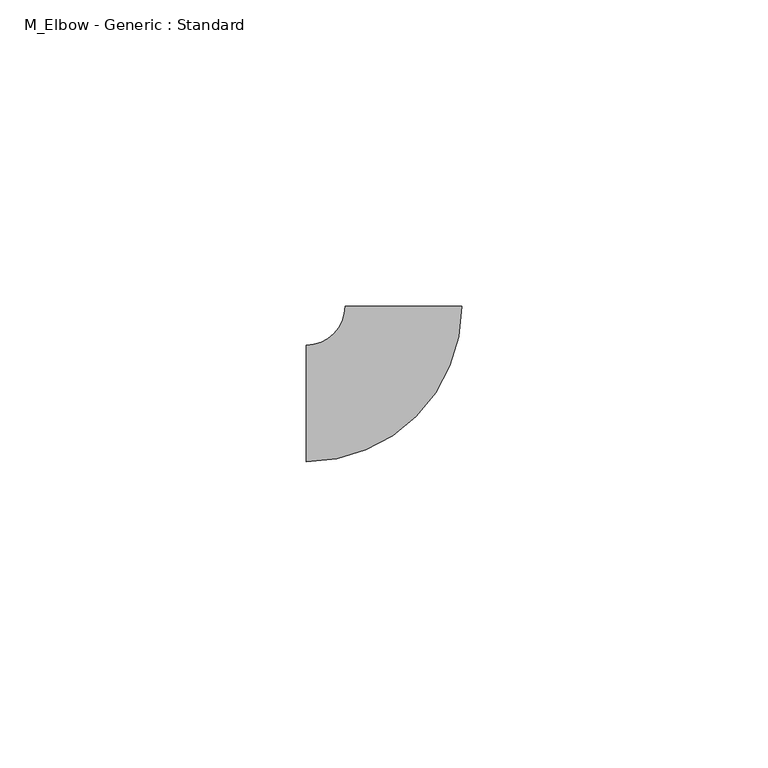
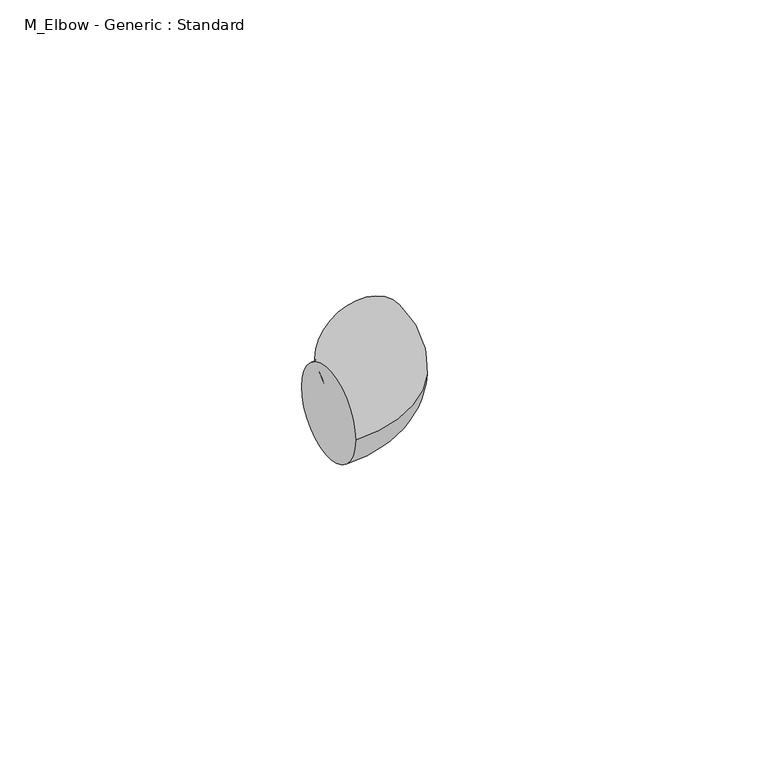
"""IFC4 building model written with IfcOpenShell, lengths in millimetres: pipe fitting geometry, M_Elbow - Generic : Standard."""

import ifcopenshell
import ifcopenshell.guid

model = None  # the IFC model being written
_history = None  # IfcOwnerHistory: only IFC2X3 demands one
_inside = {}  # id of a spatial element -> (the spatial element, [elements in it])
_under = {}  # id of a project, library or spatial element -> (it, [spatial elements below it])
_declared = {}  # id of a project -> (the project, [libraries it declares])
_typed = {}  # id of a type object -> (the type object, [elements of that type])
_made_of = {}  # id of a material, layer set ... -> (it, [elements and type objects made of it])


def new_model(schema):
    """Start an empty IFC model of exactly this schema.

    Asked for "IFC4X3", IfcOpenShell would pick the latest addendum, in which some entities
    have other attributes; the version numbers below select the first issue.
    IFC2X3 requires an IfcOwnerHistory on every rooted entity: one is made here for all.
    """
    global model, _history
    if schema == "IFC4X3":
        model = ifcopenshell.file(schema_version=(4, 3, 0, 0))
    else:
        model = ifcopenshell.file(schema=schema)
    _inside.clear()
    _under.clear()
    _declared.clear()
    _typed.clear()
    _made_of.clear()
    _history = None
    if model.schema == "IFC2X3":
        org = make("IfcOrganization", Name="unknown")
        user = make(
            "IfcPersonAndOrganization",
            ThePerson=make("IfcPerson", FamilyName="unknown"),
            TheOrganization=org,
        )
        app = make(
            "IfcApplication",
            ApplicationDeveloper=org,
            Version="unknown",
            ApplicationFullName="unknown",
            ApplicationIdentifier="unknown",
        )
        _history = make(
            "IfcOwnerHistory",
            OwningUser=user,
            OwningApplication=app,
            ChangeAction="ADDED",
            CreationDate=0,
        )
    return model


def make(cls, **values):
    """One entity of the class cls with the attributes given. An attribute that is None is left unset."""
    return model.create_entity(
        cls, **{name: value for name, value in values.items() if value is not None}
    )


def rooted(cls, **values):
    """An entity with a GlobalId (a new one), such as an element, a storey or a relation."""
    return make(cls, GlobalId=ifcopenshell.guid.new(), OwnerHistory=_history, **values)


def si_unit(unit_type, name, prefix=None):
    """IfcSIUnit, for example si_unit("LENGTHUNIT", "METRE", prefix="MILLI")."""
    return make("IfcSIUnit", UnitType=unit_type, Prefix=prefix, Name=name)


def assignment(units):
    """IfcUnitAssignment: the units of a project."""
    return None if units is None else make("IfcUnitAssignment", Units=units)


def point(xyz):
    """IfcCartesianPoint."""
    return None if xyz is None else make("IfcCartesianPoint", Coordinates=xyz)


def direction(xyz):
    """IfcDirection."""
    return None if xyz is None else make("IfcDirection", DirectionRatios=xyz)


def frame(location, z_axis=None, x_axis=None):
    """IfcAxis2Placement3D, a coordinate frame: its origin and axes. An axis left out is left unset."""
    return make(
        "IfcAxis2Placement3D",
        Location=point(location),
        Axis=direction(z_axis),
        RefDirection=direction(x_axis),
    )


def origin():
    """The frame at (0, 0, 0) with its axes left unset."""
    return frame((0.0, 0.0, 0.0))


def place(relative_to, where):
    """IfcLocalPlacement: puts the frame where relative to a parent placement (None: the world)."""
    return make(
        "IfcLocalPlacement", PlacementRelTo=relative_to, RelativePlacement=where
    )


def context(
    kind, dimensions, precision=None, world=None, true_north=None, identifier=None
):
    """IfcGeometricRepresentationContext, for example the 3D "Model" context."""
    return make(
        "IfcGeometricRepresentationContext",
        ContextIdentifier=identifier,
        ContextType=kind,
        CoordinateSpaceDimension=dimensions,
        Precision=precision,
        WorldCoordinateSystem=world,
        TrueNorth=true_north,
    )


def project(units=None, contexts=None):
    """IfcProject with its units and contexts."""
    return rooted(
        "IfcProject",
        Name="project",
        RepresentationContexts=contexts,
        UnitsInContext=assignment(units),
    )


def spatial(cls, under=None, at=None, **own):
    """A site, building, storey or space (cls), placed at a placement, below another one or the project."""
    s = rooted(cls, ObjectPlacement=at, **own)
    if under is not None:
        _under.setdefault(under.id(), (under, []))[1].append(s)
    return s


def circle_curve(where, radius):
    """IfcCircle in the frame where."""
    return make("IfcCircle", Position=where, Radius=radius)


def ellipse_curve(where, semi_axis1, semi_axis2):
    """IfcEllipse in the frame where."""
    return make(
        "IfcEllipse", Position=where, SemiAxis1=semi_axis1, SemiAxis2=semi_axis2
    )


def trimmed(basis, trim1, trim2, sense, master):
    """IfcTrimmedCurve: the piece of a basis curve between two trims."""
    return make(
        "IfcTrimmedCurve",
        BasisCurve=basis,
        Trim1=trim1,
        Trim2=trim2,
        SenseAgreement=sense,
        MasterRepresentation=master,
    )


def shape(context_of_items, identifier, shape_type, items):
    """IfcShapeRepresentation: the items that make up one representation, for example the "Body"."""
    return make(
        "IfcShapeRepresentation",
        ContextOfItems=context_of_items,
        RepresentationIdentifier=identifier,
        RepresentationType=shape_type,
        Items=items,
    )


def source(mapping_origin, context_of_items, identifier, shape_type, items):
    """IfcRepresentationMap: a shape defined once, which mapped items show again and again."""
    return make(
        "IfcRepresentationMap",
        MappingOrigin=mapping_origin,
        MappedRepresentation=shape(context_of_items, identifier, shape_type, items),
    )


def transform(
    local_origin,
    x_axis=None,
    y_axis=None,
    z_axis=None,
    scale=None,
    scale2=None,
    scale3=None,
    uniform=True,
):
    """IfcCartesianTransformationOperator3D, or its non-uniform kind. x_axis, y_axis, z_axis: its Axis1, 2, 3."""
    if uniform:
        return make(
            "IfcCartesianTransformationOperator3D",
            Axis1=direction(x_axis),
            Axis2=direction(y_axis),
            LocalOrigin=point(local_origin),
            Scale=scale,
            Axis3=direction(z_axis),
        )
    return make(
        "IfcCartesianTransformationOperator3DnonUniform",
        Axis1=direction(x_axis),
        Axis2=direction(y_axis),
        LocalOrigin=point(local_origin),
        Scale=scale,
        Axis3=direction(z_axis),
        Scale2=scale2,
        Scale3=scale3,
    )


def mapped(mapping_source, mapping_target):
    """IfcMappedItem: shows the shape of a source again, moved by a transform."""
    return make(
        "IfcMappedItem", MappingSource=mapping_source, MappingTarget=mapping_target
    )


def made_of(thing, what):
    """Note that an element or type object is made of a material, layer set ...; save() writes the relation."""
    if what is not None:
        _made_of.setdefault(what.id(), (what, []))[1].append(thing)
    return thing


def element(
    cls,
    number,
    at=None,
    inside=None,
    cuts=None,
    type_object=None,
    material=None,
    context=None,
    identifier="Body",
    shape_type=None,
    held_by="IfcProductDefinitionShape",
    body=None,
    shapes=None,
    **own,
):
    """One element of the class cls, such as IfcWall. Its Tag is "e" and its number.

    at: its placement. inside: the storey or other place that contains it. cuts: it is an
    opening in that element (IfcRelVoidsElement). A single representation is given by context,
    identifier, shape_type and body (its items); several are given by shapes. held_by: the class
    of the entity that holds the representations. save() writes the other relations.
    """
    e = rooted(cls, Tag="e%d" % number, ObjectPlacement=at, **own)
    if body is not None:
        shapes = [shape(context, identifier, shape_type, body)]
    if shapes is not None:
        e.Representation = make(held_by, Representations=shapes)
    if inside is not None:
        _inside.setdefault(inside.id(), (inside, []))[1].append(e)
    if cuts is not None:
        rooted(
            "IfcRelVoidsElement", RelatingBuildingElement=cuts, RelatedOpeningElement=e
        )
    if type_object is not None:
        _typed.setdefault(type_object.id(), (type_object, []))[1].append(e)
    return made_of(e, material)


def aggregate(whole, parts):
    """IfcRelAggregates: a whole, such as a stair, and the parts it consists of."""
    return rooted("IfcRelAggregates", RelatingObject=whole, RelatedObjects=parts)


def save(model, path):
    """Write the relations noted so far, then the file.

    IfcRelAggregates (storeys below a building ...), IfcRelContainedInSpatialStructure (elements
    in a storey), IfcRelDefinesByType, IfcRelAssociatesMaterial and IfcRelDeclares: one each for
    every whole, place, type object, material and project.
    """
    for whole, parts in _under.values():
        aggregate(whole, parts)
    for where, things in _inside.values():
        rooted(
            "IfcRelContainedInSpatialStructure",
            RelatedElements=things,
            RelatingStructure=where,
        )
    for kind, things in _typed.values():
        rooted("IfcRelDefinesByType", RelatedObjects=things, RelatingType=kind)
    for what, things in _made_of.values():
        rooted("IfcRelAssociatesMaterial", RelatedObjects=things, RelatingMaterial=what)
    for by, libraries in _declared.values():
        rooted("IfcRelDeclares", RelatingContext=by, RelatedDefinitions=libraries)
    model.write(path)


def plane_surface(at):
    """IfcPlane: the flat surface through the origin of the frame at, square to its z axis."""
    return make("IfcPlane", Position=at)


def revolved_surface(curve, axis_point, axis_direction):
    """IfcSurfaceOfRevolution: the curve turned about the line through axis_point along axis_direction."""
    return make(
        "IfcSurfaceOfRevolution",
        SweptCurve=make("IfcArbitraryOpenProfileDef", ProfileType="CURVE", Curve=curve),
        AxisPosition=make("IfcAxis1Placement", Location=point(axis_point), Axis=direction(axis_direction)),
    )


def advanced_brep(points, edges, surfaces, faces):
    """IfcAdvancedBrep: a solid bounded by faces that lie on surfaces and meet in shared edges.

    An edge is (start, end): straight between two places in points (the first is 0);
    or (start, end, curve); or (start, end, curve, False) where it runs against its curve.
    A face is (place in surfaces, loops), or (place, loops, False) where it looks against
    its surface's normal. A loop lists edges by number (the first is 1), with a minus sign
    where the edge is run from its end to its start. The first loop is the outer one.
    """
    corners = [point(p) for p in points]
    vertices = [make("IfcVertexPoint", VertexGeometry=c) for c in corners]
    made = []
    for start, end, *more in edges:
        made.append(
            make(
                "IfcEdgeCurve",
                EdgeStart=vertices[start],
                EdgeEnd=vertices[end],
                EdgeGeometry=more[0] if more else make("IfcPolyline", Points=[corners[start], corners[end]]),
                SameSense=more[1] if len(more) > 1 else True,
            )
        )
    hull = []
    for where, loops, *sense in faces:
        bounds = []
        for j, loop in enumerate(loops):
            ring = [make("IfcOrientedEdge", EdgeElement=made[abs(k) - 1], Orientation=k > 0) for k in loop]
            bounds.append(
                make(
                    "IfcFaceOuterBound" if j == 0 else "IfcFaceBound",
                    Bound=make("IfcEdgeLoop", EdgeList=ring),
                    Orientation=True,
                )
            )
        hull.append(make("IfcAdvancedFace", Bounds=bounds, FaceSurface=surfaces[where], SameSense=sense[0] if sense else True))
    return make("IfcAdvancedBrep", Outer=make("IfcClosedShell", CfsFaces=hull))


def m_elbow_generic_standard_bb5ffebe(model_context):
    return source(origin(), model_context, "Body", "AdvancedBrep", [
        advanced_brep(
        [(-15.875, -9.525, 0.0), (-15.875, 9.525, 0.0), (9.525, 15.875, 0.0), (-9.525, 15.875, 0.0)],
        [
            (0, 1, circle_curve(frame((-15.875, 0.0, 0.0), z_axis=(-1.0, 0.0, 0.0), x_axis=(0.0, 1.0, 0.0)), 9.525)),
            (1, 0, circle_curve(frame((-15.875, 0.0, 0.0), z_axis=(-1.0, 0.0, 0.0), x_axis=(0.0, 1.0, 0.0)), 9.525)),
            (2, 3, circle_curve(frame((0.0, 15.875, 0.0), z_axis=(0.0, 1.0, 0.0), x_axis=(-1.0, 0.0, 0.0)), 9.525)),
            (3, 2, circle_curve(frame((0.0, 15.875, 0.0), z_axis=(0.0, 1.0, 0.0), x_axis=(-1.0, 0.0, 0.0)), 9.525)),
            (3, 1, circle_curve(frame((-15.875, 15.875, 0.0), z_axis=(0.0, 0.0, -1.0), x_axis=(0.0, -1.0, 0.0)), 6.35)),
            (0, 2, circle_curve(frame((-15.875, 15.875, 0.0), z_axis=(0.0, 0.0, 1.0), x_axis=(0.0, -1.0, 0.0)), 25.4)),
        ],
        [
            plane_surface(frame((-15.875, 0.0, 0.0), z_axis=(-1.0, 0.0, 0.0), x_axis=(0.0, 0.0, 1.0))),
            plane_surface(frame((0.0, 15.875, 0.0), z_axis=(0.0, 1.0, 0.0), x_axis=(0.0, 0.0, 1.0))),
            revolved_surface(trimmed(ellipse_curve(frame((-15.875, 0.0, 0.0), z_axis=(-1.0, 0.0, 0.0), x_axis=(0.0, 1.0, 0.0)), 9.525, 9.525), [point((-15.875, -9.525, 0.0))], [point((-15.875, 9.525, 0.0))], True, "CARTESIAN"), (-15.875, 15.875, 0.0), (0.0, 0.0, 1.0)),
            revolved_surface(trimmed(ellipse_curve(frame((-15.875, 0.0, 0.0), z_axis=(-1.0, 0.0, 0.0), x_axis=(0.0, 1.0, 0.0)), 9.525, 9.525), [point((-15.875, 9.525, 0.0))], [point((-15.875, -9.525, 0.0))], True, "CARTESIAN"), (-15.875, 15.875, 0.0), (0.0, 0.0, 1.0)),
        ],
        [
            (0, [[1, 2]]),
            (1, [[3, 4]]),
            (2, [[5, -1, 6, -4]]),
            (3, [[-6, -2, -5, -3]]),
        ],
    ),
    ])


if __name__ == "__main__":
    model = new_model("IFC4")
    model_context = context("Model", 3, world=origin())
    ifc_project = project(units=[si_unit("LENGTHUNIT", "METRE", prefix="MILLI")], contexts=[model_context])
    site = spatial("IfcSite", under=ifc_project)
    building = spatial("IfcBuilding", under=site)
    placement = place(None, origin())
    m_elbow_generic_standard_shape = m_elbow_generic_standard_bb5ffebe(model_context)
    element("IfcPipeFitting", 1, ObjectType="M_Elbow - Generic : Standard", at=placement, inside=building, context=model_context, shape_type="MappedRepresentation", body=[
        mapped(m_elbow_generic_standard_shape, transform((0.0, 0.0, 0.0), x_axis=(1.0, 0.0, 0.0), y_axis=(0.0, 1.0, 0.0), z_axis=(0.0, 0.0, 1.0))),
    ])
    save(model, "model.ifc")
